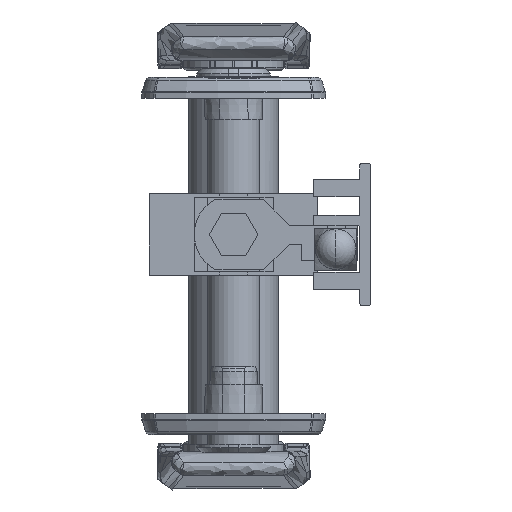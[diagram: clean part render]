
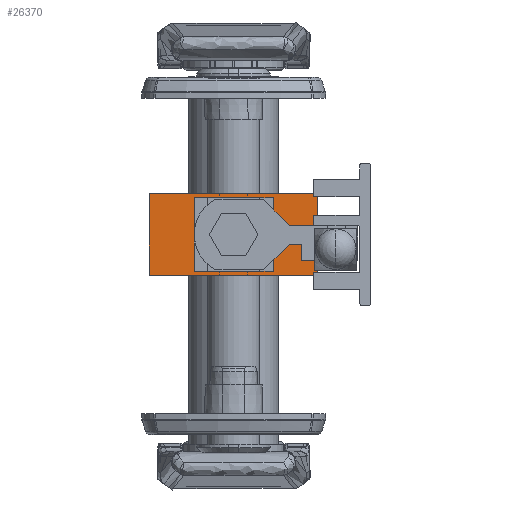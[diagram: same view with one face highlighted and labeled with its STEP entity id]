
A CAD part, front view. The second image highlights one B-rep face of the part: STEP entity #26370.
In plain terms, the highlighted planar face has unit normal (0, -1, 0).
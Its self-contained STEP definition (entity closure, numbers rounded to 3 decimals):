
#513 = CARTESIAN_POINT ( 'NONE',  ( 7., -199.25, 6.25 ) ) ;
#2655 = CARTESIAN_POINT ( 'NONE',  ( 7., -199.25, 6.25 ) ) ;
#3168 = ORIENTED_EDGE ( 'NONE', *, *, #22111, .F. ) ;
#3798 = LINE ( 'NONE', #513, #15421 ) ;
#4997 = FACE_BOUND ( 'NONE', #51008, .T. ) ;
#5244 = ORIENTED_EDGE ( 'NONE', *, *, #33658, .F. ) ;
#9430 = VERTEX_POINT ( 'NONE', #30644 ) ;
#10299 = DIRECTION ( 'NONE',  ( 0., 0., 1. ) ) ;
#10550 = VECTOR ( 'NONE', #50572, 1000. ) ;
#10715 = DIRECTION ( 'NONE',  ( 0., 0., -1. ) ) ;
#11308 = CARTESIAN_POINT ( 'NONE',  ( -16., -199.25, -7.75 ) ) ;
#12060 = VECTOR ( 'NONE', #39017, 1000. ) ;
#12851 = EDGE_CURVE ( 'NONE', #57636, #9430, #30560, .T. ) ;
#14025 = LINE ( 'NONE', #32321, #10550 ) ;
#14269 = FACE_OUTER_BOUND ( 'NONE', #43357, .T. ) ;
#14809 = CARTESIAN_POINT ( 'NONE',  ( 7., -199.25, 6.25 ) ) ;
#15107 = LINE ( 'NONE', #14809, #37818 ) ;
#15421 = VECTOR ( 'NONE', #22358, 1000. ) ;
#15539 = DIRECTION ( 'NONE',  ( 1., 0., 0. ) ) ;
#16300 = EDGE_CURVE ( 'NONE', #45775, #55817, #18836, .T. ) ;
#16429 = CARTESIAN_POINT ( 'NONE',  ( -16., -199.25, 7.75 ) ) ;
#16499 = EDGE_CURVE ( 'NONE', #55817, #9430, #20903, .T. ) ;
#17965 = VECTOR ( 'NONE', #15539, 1000. ) ;
#18536 = ORIENTED_EDGE ( 'NONE', *, *, #12851, .F. ) ;
#18836 = LINE ( 'NONE', #32602, #58945 ) ;
#20619 = VERTEX_POINT ( 'NONE', #26035 ) ;
#20748 = CARTESIAN_POINT ( 'NONE',  ( -7., -199.25, -6.25 ) ) ;
#20903 = LINE ( 'NONE', #11308, #49067 ) ;
#22111 = EDGE_CURVE ( 'NONE', #23676, #20619, #14025, .T. ) ;
#22358 = DIRECTION ( 'NONE',  ( -1., 0., 0. ) ) ;
#23676 = VERTEX_POINT ( 'NONE', #47980 ) ;
#26035 = CARTESIAN_POINT ( 'NONE',  ( -7., -199.25, -6.25 ) ) ;
#26370 = ADVANCED_FACE ( 'NONE', ( #4997, #14269 ), #41810, .F. ) ;
#27483 = CARTESIAN_POINT ( 'NONE',  ( -16., -199.25, 7.75 ) ) ;
#28337 = CARTESIAN_POINT ( 'NONE',  ( -16., -199.25, 7.75 ) ) ;
#28923 = VERTEX_POINT ( 'NONE', #2655 ) ;
#29327 = ORIENTED_EDGE ( 'NONE', *, *, #58028, .F. ) ;
#30560 = LINE ( 'NONE', #58398, #37612 ) ;
#30644 = CARTESIAN_POINT ( 'NONE',  ( 16., -199.25, -7.75 ) ) ;
#32321 = CARTESIAN_POINT ( 'NONE',  ( -7., -199.25, -6.25 ) ) ;
#32602 = CARTESIAN_POINT ( 'NONE',  ( -16., -199.25, 7.75 ) ) ;
#32976 = EDGE_CURVE ( 'NONE', #36831, #28923, #15107, .T. ) ;
#33658 = EDGE_CURVE ( 'NONE', #20619, #36831, #43168, .T. ) ;
#34124 = LINE ( 'NONE', #16429, #17965 ) ;
#36663 = ORIENTED_EDGE ( 'NONE', *, *, #32976, .F. ) ;
#36831 = VERTEX_POINT ( 'NONE', #42326 ) ;
#37612 = VECTOR ( 'NONE', #53898, 1000. ) ;
#37818 = VECTOR ( 'NONE', #10299, 1000. ) ;
#39017 = DIRECTION ( 'NONE',  ( 1., 0., 0. ) ) ;
#40926 = DIRECTION ( 'NONE',  ( 0., 1., 0. ) ) ;
#41810 = PLANE ( 'NONE',  #44139 ) ;
#42326 = CARTESIAN_POINT ( 'NONE',  ( 7., -199.25, -6.25 ) ) ;
#42568 = CARTESIAN_POINT ( 'NONE',  ( -16., -199.25, -7.75 ) ) ;
#43168 = LINE ( 'NONE', #20748, #12060 ) ;
#43357 = EDGE_LOOP ( 'NONE', ( #52803, #18536, #56108, #44794 ) ) ;
#44139 = AXIS2_PLACEMENT_3D ( 'NONE', #28337, #40926, #59222 ) ;
#44794 = ORIENTED_EDGE ( 'NONE', *, *, #16300, .T. ) ;
#45775 = VERTEX_POINT ( 'NONE', #27483 ) ;
#47777 = EDGE_CURVE ( 'NONE', #45775, #57636, #34124, .T. ) ;
#47980 = CARTESIAN_POINT ( 'NONE',  ( -7., -199.25, 6.25 ) ) ;
#49067 = VECTOR ( 'NONE', #52028, 1000. ) ;
#50572 = DIRECTION ( 'NONE',  ( 0., 0., -1. ) ) ;
#51008 = EDGE_LOOP ( 'NONE', ( #3168, #29327, #36663, #5244 ) ) ;
#52028 = DIRECTION ( 'NONE',  ( 1., 0., 0. ) ) ;
#52622 = CARTESIAN_POINT ( 'NONE',  ( 16., -199.25, 7.75 ) ) ;
#52803 = ORIENTED_EDGE ( 'NONE', *, *, #16499, .T. ) ;
#53898 = DIRECTION ( 'NONE',  ( 0., 0., -1. ) ) ;
#55817 = VERTEX_POINT ( 'NONE', #42568 ) ;
#56108 = ORIENTED_EDGE ( 'NONE', *, *, #47777, .F. ) ;
#57636 = VERTEX_POINT ( 'NONE', #52622 ) ;
#58028 = EDGE_CURVE ( 'NONE', #28923, #23676, #3798, .T. ) ;
#58398 = CARTESIAN_POINT ( 'NONE',  ( 16., -199.25, 7.75 ) ) ;
#58945 = VECTOR ( 'NONE', #10715, 1000. ) ;
#59222 = DIRECTION ( 'NONE',  ( 0., 0., 1. ) ) ;
